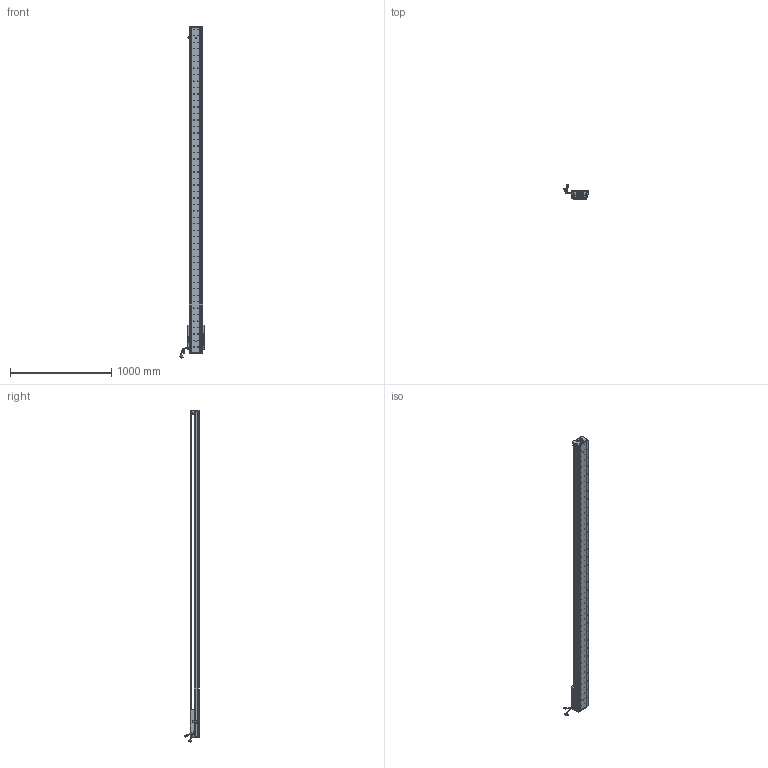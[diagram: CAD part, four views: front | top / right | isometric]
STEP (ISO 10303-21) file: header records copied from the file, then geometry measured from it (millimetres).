
FILE_DESCRIPTION (( 'STEP AP203' ), '1' );
FILE_NAME ('Z3-RY140D-1-L500-B-K.SLDASM_2900.step', '2021-05-17T08:07:07', ( '盈信电脑' ), ( '东莞市道滘镇水果街19号' ), 'SwSTEP 2.0', 'SolidWorks 2016', '' );
FILE_SCHEMA (( 'CONFIG_CONTROL_DESIGN' ));
Length unit declared in the file: millimetre
Products named in the file (36): 榋妏寠巭燃_暯_M2_2; SCALE; PBU_SHEET; SCREW-M1.6-1; Z3-RY140-L500直线电机模组底座_2900; 覜茼ん672; SCALE-Part-1; SCREW-M1.7; SCREW-M1.7-1; SCREW-M1.6-2; 140-Z-臏賑輸盄裔(21遴); SCALE-Part-2; SHIELDPLATE; HARNESS; SEAL; Z3-RY140圉猾敕臏賑輸(21遴); Z3-RY140D-1-L500-B-K.SLDASM_2900; 140雄赽晤鎢ん堤盄; Z-RY140詩湍狟揤裔; COVER-Part-1; HARNESS-Part-1; HOLDER0; COVER; PSLH080_PSLF2; LABEL; Z-140詩湍傷裔啣; HARNESS-Part-2; SCREW-M1.6-3; SEAL-Part-1; SCREW-M1.6; Z-RY140感应器672光电感应片; Z3-RY140-L500詩湍100mm遵_2900; 140蚥薯蝶輸; Z-RY140詩湍奻揤裔; 080黍杅芛假蚾釱21遴; LABEL-Part-1
Assembly tree (41 placements, depth 4):
  Z3-RY140D-1-L500-B-K.SLDASM_2900
    Z3-RY140-L500直线电机模组底座_2900
    Z-RY140感应器672光电感应片
    Z3-RY140圉猾敕臏賑輸(21遴)
    覜茼ん672  x3
    Z3-RY140-L500詩湍100mm遵_2900
    PSLH080_PSLF2
      SCALE
        SCALE-Part-1
        SCALE-Part-2
      HARNESS
        HARNESS-Part-1
        HARNESS-Part-2
      LABEL
        LABEL-Part-1
      COVER
        COVER-Part-1
      SEAL
        SEAL-Part-1
      榋妏寠巭燃_暯_M2_2
      SHIELDPLATE
      SCREW-M1.7
      SCREW-M1.7-1
      PBU_SHEET
      SCREW-M1.6
      SCREW-M1.6-1
      SCREW-M1.6-2
      SCREW-M1.6-3
      HOLDER0
    080黍杅芛假蚾釱21遴
    140-Z-臏賑輸盄裔(21遴)
    Z-140詩湍傷裔啣  x2
    Z-RY140詩湍狟揤裔  x2
    Z-RY140詩湍奻揤裔  x2
    140蚥薯蝶輸  x2
    140雄赽晤鎢ん堤盄
Bounding box: 239.79 x 143.88 x 3275.87 mm (x, y, z)
Volume: 10279390.1 mm3; surface area: 2680406.5 mm2
Topology: 36 solids, 36 shells, 4514 faces, 12358 edges, 7823 vertices
Faces by surface type: cylinder 2508, plane 1438, cone 446, torus 69, bspline 53
Entity records: 145442 total; most frequent: CARTESIAN_POINT 41839, ORIENTED_EDGE 21548, DIRECTION 19726, EDGE_CURVE 10774, AXIS2_PLACEMENT_3D 7358, VERTEX_POINT 6991, VECTOR 5010, LINE 5010
